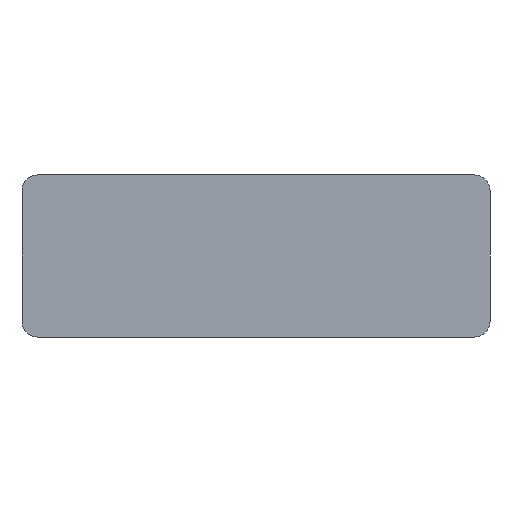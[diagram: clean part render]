
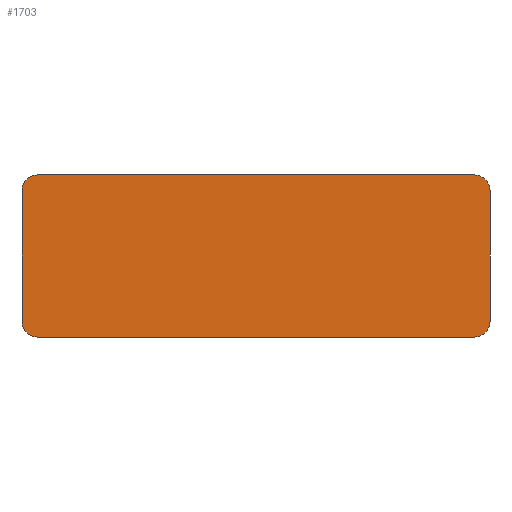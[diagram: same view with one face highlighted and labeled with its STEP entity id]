
A CAD part, front view. The second image highlights one B-rep face of the part: STEP entity #1703.
In plain terms, the highlighted planar face has unit normal (0, -1, 0).
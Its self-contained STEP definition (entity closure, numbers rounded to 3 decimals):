
#75=CIRCLE('',#1807,6.);
#77=CIRCLE('',#1811,6.);
#78=CIRCLE('',#1814,6.);
#80=CIRCLE('',#1818,6.);
#185=FACE_OUTER_BOUND('',#284,.T.);
#284=EDGE_LOOP('',(#1347,#1348,#1349,#1350,#1351,#1352,#1353,#1354));
#371=LINE('',#2542,#547);
#374=LINE('',#2550,#550);
#377=LINE('',#2558,#553);
#432=LINE('',#2706,#608);
#547=VECTOR('',#2035,10.);
#550=VECTOR('',#2044,10.);
#553=VECTOR('',#2053,10.);
#608=VECTOR('',#2204,10.);
#719=VERTEX_POINT('',#2530);
#720=VERTEX_POINT('',#2532);
#723=VERTEX_POINT('',#2540);
#724=VERTEX_POINT('',#2544);
#725=VERTEX_POINT('',#2548);
#726=VERTEX_POINT('',#2552);
#727=VERTEX_POINT('',#2556);
#730=VERTEX_POINT('',#2564);
#892=EDGE_CURVE('',#719,#720,#75,.F.);
#897=EDGE_CURVE('',#723,#719,#371,.F.);
#899=EDGE_CURVE('',#724,#723,#77,.F.);
#901=EDGE_CURVE('',#725,#724,#374,.F.);
#903=EDGE_CURVE('',#726,#725,#78,.F.);
#905=EDGE_CURVE('',#727,#726,#377,.F.);
#909=EDGE_CURVE('',#730,#727,#80,.F.);
#978=EDGE_CURVE('',#720,#730,#432,.F.);
#1347=ORIENTED_EDGE('',*,*,#899,.F.);
#1348=ORIENTED_EDGE('',*,*,#901,.F.);
#1349=ORIENTED_EDGE('',*,*,#903,.F.);
#1350=ORIENTED_EDGE('',*,*,#905,.F.);
#1351=ORIENTED_EDGE('',*,*,#909,.F.);
#1352=ORIENTED_EDGE('',*,*,#978,.F.);
#1353=ORIENTED_EDGE('',*,*,#892,.F.);
#1354=ORIENTED_EDGE('',*,*,#897,.F.);
#1618=PLANE('',#1864);
#1703=ADVANCED_FACE('',(#185),#1618,.F.);
#1807=AXIS2_PLACEMENT_3D('',#2533,#2026,#2027);
#1811=AXIS2_PLACEMENT_3D('',#2546,#2039,#2040);
#1814=AXIS2_PLACEMENT_3D('',#2554,#2048,#2049);
#1818=AXIS2_PLACEMENT_3D('',#2566,#2060,#2061);
#1864=AXIS2_PLACEMENT_3D('',#2707,#2205,#2206);
#2026=DIRECTION('center_axis',(0.,-1.,0.));
#2027=DIRECTION('ref_axis',(0.,0.,-1.));
#2035=DIRECTION('',(1.,0.,0.));
#2039=DIRECTION('center_axis',(0.,-1.,0.));
#2040=DIRECTION('ref_axis',(1.,0.,0.));
#2044=DIRECTION('',(0.,0.,1.));
#2048=DIRECTION('center_axis',(0.,-1.,0.));
#2049=DIRECTION('ref_axis',(0.,0.,1.));
#2053=DIRECTION('',(-1.,0.,0.));
#2060=DIRECTION('center_axis',(0.,-1.,0.));
#2061=DIRECTION('ref_axis',(-1.,0.,0.));
#2204=DIRECTION('',(0.,0.,-1.));
#2205=DIRECTION('center_axis',(0.,1.,0.));
#2206=DIRECTION('ref_axis',(1.,0.,0.));
#2530=CARTESIAN_POINT('',(3.,-3.,-58.));
#2532=CARTESIAN_POINT('',(-3.,-3.,-52.));
#2533=CARTESIAN_POINT('Origin',(3.,-3.,-52.));
#2540=CARTESIAN_POINT('',(167.,-3.,-58.));
#2542=CARTESIAN_POINT('',(126.,-3.,-58.));
#2544=CARTESIAN_POINT('',(173.,-3.,-52.));
#2546=CARTESIAN_POINT('Origin',(167.,-3.,-52.));
#2548=CARTESIAN_POINT('',(173.,-3.,-3.));
#2550=CARTESIAN_POINT('',(173.,-3.,-15.25));
#2552=CARTESIAN_POINT('',(167.,-3.,3.));
#2554=CARTESIAN_POINT('Origin',(167.,-3.,-3.));
#2556=CARTESIAN_POINT('',(3.,-3.,3.));
#2558=CARTESIAN_POINT('',(44.,-3.,3.));
#2564=CARTESIAN_POINT('',(-3.,-3.,-3.));
#2566=CARTESIAN_POINT('Origin',(3.,-3.,-3.));
#2706=CARTESIAN_POINT('',(-3.,-3.,-39.75));
#2707=CARTESIAN_POINT('Origin',(85.,-3.,-27.5));
